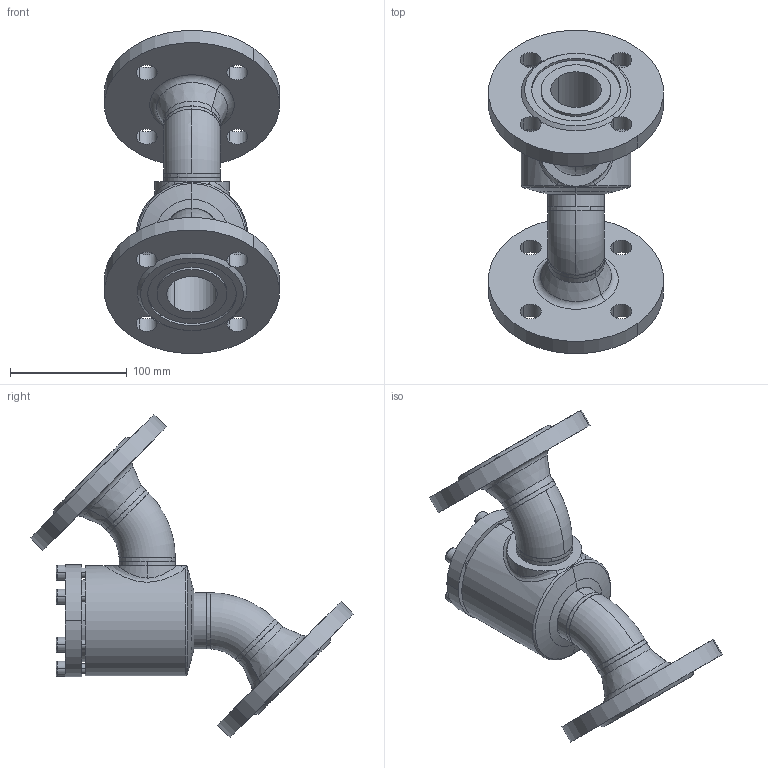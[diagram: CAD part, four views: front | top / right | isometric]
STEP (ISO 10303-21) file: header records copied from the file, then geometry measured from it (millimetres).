
FILE_DESCRIPTION (( 'STEP AP214' ), '1' );
FILE_NAME ('SS52320D14-DN040_DIN-FL-N_PS40.STEP', '2006-05-02T05:47:39', ( 'Herr Grams' ), ( 'AWP GmbH' ), 'SwSTEP 2.0', 'SolidWorks 2002296', '' );
FILE_SCHEMA (( 'AUTOMOTIVE_DESIGN' ));
Length unit declared in the file: millimetre
Products named in the file (13): SS52320D14-DN040_DIN-FL-N_PS40; Gehäuse-kpl16320-DN040_DIN_PS40_Standard; Gehäuse-kpl16300-DN040_R1_Standard; Gehäuse16300-DN040_Standard; bead16300-Geh-040-2_Standard; bead16300-Geh-040-1_Standard; Rohrbogen 45°_R1-Fase_Rohrbogen-DN040-45°; Flansch-DIN2635-Nut_PS40_DIN-Flansch-DN040_PS40-Nut; bead16320-DN040-1_Standard; bead16320-DN040-2_Standard; SS52300E15_Deck+Schr-DN40-50_Standard; Deckel52300E15-DN40-50_Standard; Zylinderschraube-DIN912_M 8x 25
Assembly tree (19 placements, depth 4):
  SS52320D14-DN040_DIN-FL-N_PS40
    Gehäuse-kpl16320-DN040_DIN_PS40_Standard
      bead16320-DN040-2_Standard
      Gehäuse-kpl16300-DN040_R1_Standard
        Rohrbogen 45°_R1-Fase_Rohrbogen-DN040-45°  x2
        Gehäuse16300-DN040_Standard
        bead16300-Geh-040-1_Standard
        bead16300-Geh-040-2_Standard
      bead16320-DN040-1_Standard
      Flansch-DIN2635-Nut_PS40_DIN-Flansch-DN040_PS40-Nut  x2
    SS52300E15_Deck+Schr-DN40-50_Standard
      Zylinderschraube-DIN912_M 8x 25  x6
      Deckel52300E15-DN40-50_Standard
Bounding box: 149.43 x 276.47 x 276.47 mm (x, y, z)
Volume: 979556.1 mm3; surface area: 228171.5 mm2
Topology: 16 solids, 16 shells, 285 faces, 669 edges, 425 vertices
Faces by surface type: cylinder 95, plane 87, cone 58, torus 26, bspline 19
Entity records: 51838 total; most frequent: CARTESIAN_POINT 47604, ORIENTED_EDGE 750, DIRECTION 748, EDGE_CURVE 375, AXIS2_PLACEMENT_3D 318, VERTEX_POINT 239, EDGE_LOOP 188, CIRCLE 159
